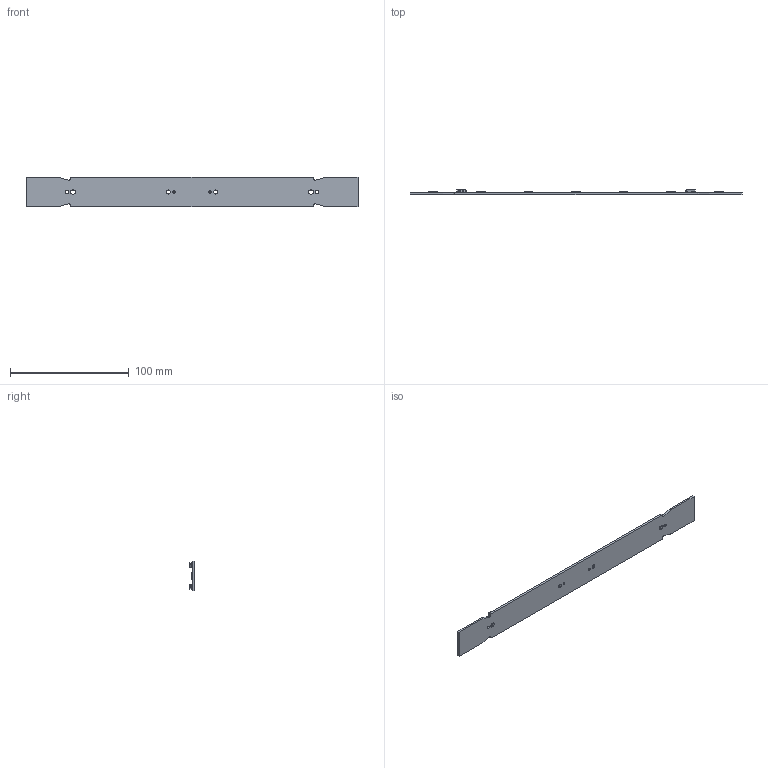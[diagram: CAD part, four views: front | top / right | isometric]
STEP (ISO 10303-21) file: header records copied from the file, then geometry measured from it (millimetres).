
FILE_DESCRIPTION((''),'2;1');
FILE_NAME('ASM0001_ASM','2022-07-06T13:17:01',('msavic'),(''),'CREO PARAMETRIC BY PTC INC, 2016510','CREO PARAMETRIC BY PTC INC, 2016510','');
FILE_SCHEMA(('AUTOMOTIVE_DESIGN { 1 0 10303 214 1 1 1 1 }'));
Products named in the file (34): PRT00013; 2065-101_998-403; PIN1BODY; PIN2BODY; CERAMICBODY; COATINGBODY; TEXT1BODY; TEXT2BODY; TEXT3BODY; TEXT4BODY; RESISTOR_0805_TEXT_1_ASM; STW8A12D127; TEXT_VOSSLOH; GERMANY__TXT0; TEXT_DATECODE_; TEXT_REV; POINT_; TEXT_TC; TEXT_WW; TEXT_CW; UKCA_LOGO; VS_LOGO; TROUGAO_ZA_VS-LOGO; C; E; BUILT-IN_LED_MODULE-5MM004; BUILT-IN_LED_MODULE-5MM003; BUILT-IN_LED_MODULE-5MM002; BUILT-IN_LED_MODULE-5MM001; TEXT_CW-PLUS; TEXT_WWPLUS; TEXT_WW-; TEXT_CW-MINUS; ASM0001_ASM
Assembly tree (84 placements, depth 3):
  ASM0001_ASM
    PRT00013
    2065-101_998-403  x4
    RESISTOR_0805_TEXT_1_ASM  x19
      PIN1BODY
      PIN2BODY
      CERAMICBODY
      COATINGBODY
      TEXT1BODY
      TEXT2BODY
      TEXT3BODY
      TEXT4BODY
    STW8A12D127  x28
    TEXT_VOSSLOH
    GERMANY__TXT0
    TEXT_DATECODE_
    TEXT_REV
    POINT_  x2
    TEXT_TC  x2
    TEXT_WW
    TEXT_CW
    UKCA_LOGO
    VS_LOGO
    TROUGAO_ZA_VS-LOGO
    C
    E
    BUILT-IN_LED_MODULE-5MM004
    BUILT-IN_LED_MODULE-5MM003
    BUILT-IN_LED_MODULE-5MM002
    BUILT-IN_LED_MODULE-5MM001  x2
    TEXT_CW-PLUS
    TEXT_WWPLUS
    TEXT_WW-
    TEXT_CW-MINUS
Bounding box: 279 x 4.3 x 25 mm (x, y, z)
Volume: 11239.3 mm3; surface area: 16775.7 mm2
Topology: 313 solids, 313 shells, 7757 faces, 21901 edges, 14834 vertices
Faces by surface type: plane 4496, extrusion 2570, cylinder 691
Entity records: 132947 total; most frequent: CARTESIAN_POINT 29789, ORIENTED_EDGE 16808, DIRECTION 11260, EDGE_CURVE 8404, VECTOR 6331, VERTEX_POINT 5613, LINE 4858, PRESENTATION_STYLE_ASSIGNMENT 4664
